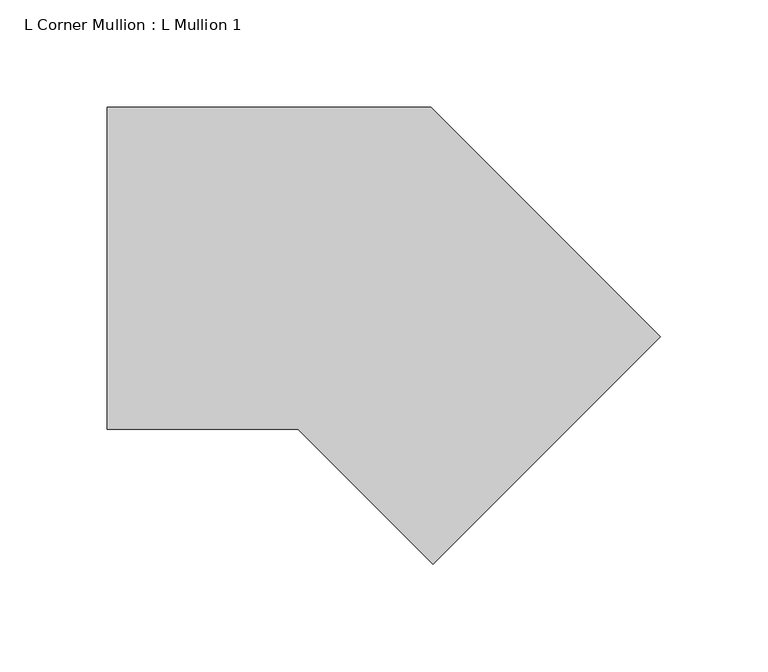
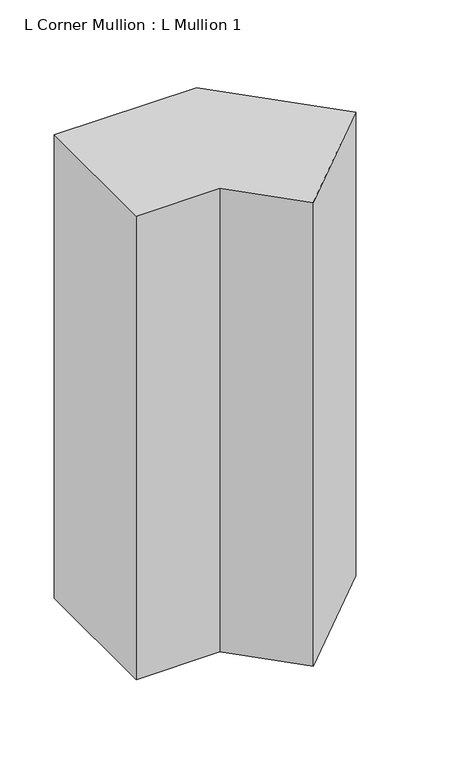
"""IFC4 building model written with IfcOpenShell, lengths in millimetres: member geometry, L Corner Mullion : L Mullion 1."""

from ifc_helpers import new_model, si_unit, frame, origin, place, context, project, spatial, polyline, outline, extrude, source, transform, mapped, element, save


def l_corner_mullion_l_mullion_1_990ac218(model_context):
    return source(origin(), model_context, "Body", "SweptSolid", [
        extrude(outline(polyline([(20.636039, -164.8858223), (-42.2497834, -102.0), (-131.1837662, -102.0), (-131.1837662, 48.0), (19.882251, 48.0), (126.7020561, -58.8198052), (20.636039, -164.8858223)])), frame((0.0, 0.0, -520.0), z_axis=(0.0, 0.0, 1.0), x_axis=(1.0, 0.0, 0.0)), (0.0, 0.0, 1.0), 520.0),
    ])


if __name__ == "__main__":
    model = new_model("IFC4")
    model_context = context("Model", 3, world=origin())
    ifc_project = project(units=[si_unit("LENGTHUNIT", "METRE", prefix="MILLI")], contexts=[model_context])
    site = spatial("IfcSite", under=ifc_project)
    building = spatial("IfcBuilding", under=site)
    placement = place(None, origin())
    l_corner_mullion_l_mullion_1_shape = l_corner_mullion_l_mullion_1_990ac218(model_context)
    element("IfcMember", 1, ObjectType="L Corner Mullion : L Mullion 1", at=placement, inside=building, context=model_context, shape_type="MappedRepresentation", body=[
        mapped(l_corner_mullion_l_mullion_1_shape, transform((0.0, 0.0, 0.0), x_axis=(1.0, 0.0, 0.0), y_axis=(0.0, 1.0, 0.0), z_axis=(0.0, 0.0, 1.0))),
    ])
    save(model, "model.ifc")
